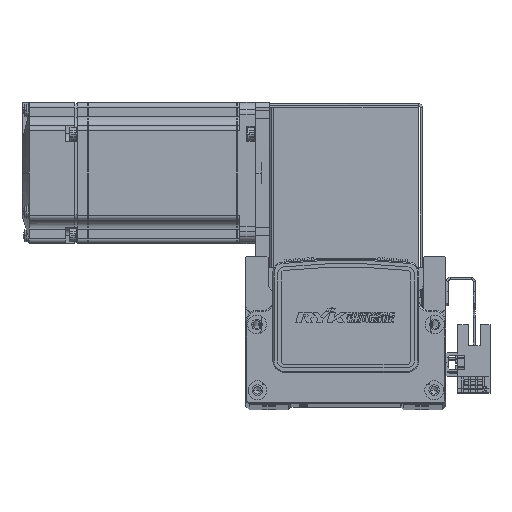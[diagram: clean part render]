
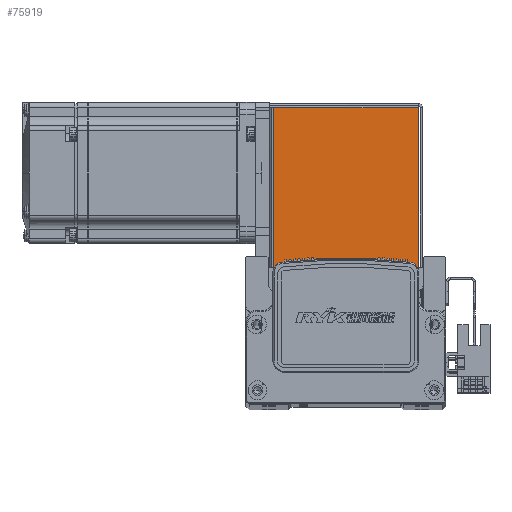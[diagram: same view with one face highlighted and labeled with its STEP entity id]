
A CAD part, top view. The second image highlights one B-rep face of the part: STEP entity #75919.
In plain terms, the highlighted planar face has unit normal (0, 0, 1).
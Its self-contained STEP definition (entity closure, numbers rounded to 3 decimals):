
#2344 = CARTESIAN_POINT ( 'NONE',  ( -30.793, 0., 35. ) ) ;
#2349 = CARTESIAN_POINT ( 'NONE',  ( -32.5, 0.737, 35. ) ) ;
#2353 = DIRECTION ( 'NONE',  ( 0., 1., 0. ) ) ;
#2369 = DIRECTION ( 'NONE',  ( -1., 0., 0. ) ) ;
#3410 = DIRECTION ( 'NONE',  ( 0., 1., 0. ) ) ;
#3416 = CARTESIAN_POINT ( 'NONE',  ( 30.763, 0.737, 35. ) ) ;
#4410 = DIRECTION ( 'NONE',  ( -1., 0., 0. ) ) ;
#4424 = CARTESIAN_POINT ( 'NONE',  ( 0., 68.5, 35. ) ) ;
#5208 = EDGE_CURVE ( 'NONE', #75312, #75306, #63000, .T. ) ;
#5217 = EDGE_CURVE ( 'NONE', #75307, #75312, #63035, .T. ) ;
#5222 = EDGE_CURVE ( 'NONE', #75255, #75306, #63006, .T. ) ;
#5260 = EDGE_CURVE ( 'NONE', #75307, #75255, #63129, .T. ) ;
#10766 = FACE_OUTER_BOUND ( 'NONE', #26135, .T. ) ;
#14113 = ORIENTED_EDGE ( 'NONE', *, *, #5222, .T. ) ;
#14115 = ORIENTED_EDGE ( 'NONE', *, *, #5217, .F. ) ;
#14159 = ORIENTED_EDGE ( 'NONE', *, *, #5208, .F. ) ;
#14211 = ORIENTED_EDGE ( 'NONE', *, *, #5260, .T. ) ;
#19192 = DIRECTION ( 'NONE',  ( -1., 0., 0. ) ) ;
#19201 = CARTESIAN_POINT ( 'NONE',  ( 0., 0., 35. ) ) ;
#19231 = PLANE ( 'NONE',  #38283 ) ;
#19233 = DIRECTION ( 'NONE',  ( 0., 0., -1. ) ) ;
#26135 = EDGE_LOOP ( 'NONE', ( #14211, #14113, #14159, #14115 ) ) ;
#28836 = CARTESIAN_POINT ( 'NONE',  ( 30.763, 68.5, 35. ) ) ;
#28906 = CARTESIAN_POINT ( 'NONE',  ( -30.793, 68.5, 35. ) ) ;
#28912 = CARTESIAN_POINT ( 'NONE',  ( 30.763, 0.737, 35. ) ) ;
#28940 = CARTESIAN_POINT ( 'NONE',  ( -30.793, 0.737, 35. ) ) ;
#38283 = AXIS2_PLACEMENT_3D ( 'NONE', #19201, #19233, #19192 ) ;
#62970 = VECTOR ( 'NONE', #4410, 1000. ) ;
#63000 = LINE ( 'NONE', #2344, #63029 ) ;
#63006 = LINE ( 'NONE', #4424, #62970 ) ;
#63019 = VECTOR ( 'NONE', #2369, 1000. ) ;
#63029 = VECTOR ( 'NONE', #2353, 1000. ) ;
#63035 = LINE ( 'NONE', #2349, #63019 ) ;
#63103 = VECTOR ( 'NONE', #3410, 1000. ) ;
#63129 = LINE ( 'NONE', #3416, #63103 ) ;
#75255 = VERTEX_POINT ( 'NONE', #28836 ) ;
#75306 = VERTEX_POINT ( 'NONE', #28906 ) ;
#75307 = VERTEX_POINT ( 'NONE', #28912 ) ;
#75312 = VERTEX_POINT ( 'NONE', #28940 ) ;
#75919 = ADVANCED_FACE ( 'NONE', ( #10766 ), #19231, .F. ) ;
